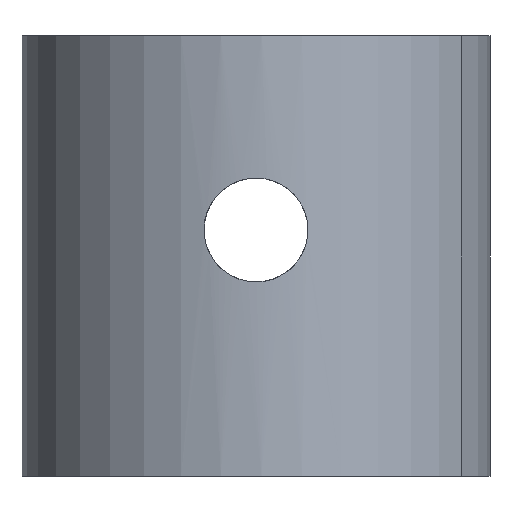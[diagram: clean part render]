
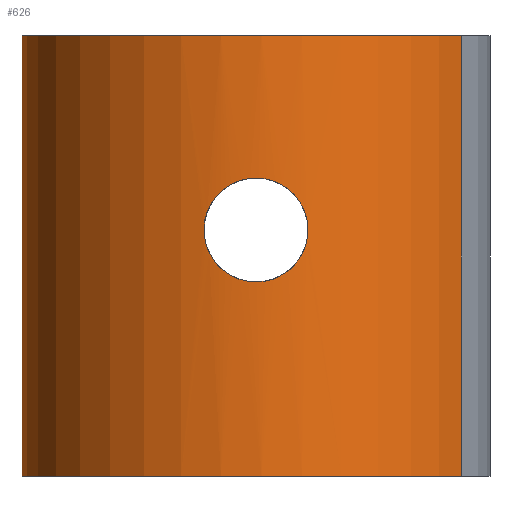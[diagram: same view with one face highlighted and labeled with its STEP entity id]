
A CAD part, left-side view. The second image highlights one B-rep face of the part: STEP entity #626.
In plain terms, the highlighted cylindrical face has radius 6.75 mm (diameter 13.5 mm), a partial arc.
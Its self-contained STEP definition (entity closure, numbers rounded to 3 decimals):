
#517=AXIS2_PLACEMENT_3D('Cylinder Axis2P3D',#514,#515,#516) ;
#565=AXIS2_PLACEMENT_3D('Circle Axis2P3D',#563,#564,$) ;
#575=AXIS2_PLACEMENT_3D('Circle Axis2P3D',#573,#574,$) ;
#514=CARTESIAN_POINT('Axis2P3D Location',(0.,0.,8.6)) ;
#519=CARTESIAN_POINT('Line Origine',(-3.236,-5.924,6.35)) ;
#523=CARTESIAN_POINT('Vertex',(-3.236,-5.924,12.7)) ;
#525=CARTESIAN_POINT('Vertex',(-3.236,-5.924,0.)) ;
#532=CARTESIAN_POINT('Vertex',(3.236,5.924,0.)) ;
#535=CARTESIAN_POINT('Line Origine',(3.236,5.924,6.35)) ;
#539=CARTESIAN_POINT('Vertex',(3.236,5.924,12.7)) ;
#563=CARTESIAN_POINT('Axis2P3D Location',(0.,0.,12.7)) ;
#573=CARTESIAN_POINT('Axis2P3D Location',(0.,0.,0.)) ;
#585=CARTESIAN_POINT('Control Point',(-6.712,-0.719,5.784)) ;
#586=CARTESIAN_POINT('Control Point',(-6.696,-0.862,5.862)) ;
#587=CARTESIAN_POINT('Control Point',(-6.678,-0.994,5.959)) ;
#588=CARTESIAN_POINT('Control Point',(-6.659,-1.112,6.073)) ;
#589=CARTESIAN_POINT('Control Point',(-6.604,-1.412,6.457)) ;
#590=CARTESIAN_POINT('Control Point',(-6.571,-1.545,6.94)) ;
#591=CARTESIAN_POINT('Control Point',(-6.571,-1.543,7.28)) ;
#592=CARTESIAN_POINT('Control Point',(-6.606,-1.403,7.762)) ;
#593=CARTESIAN_POINT('Control Point',(-6.661,-1.099,8.141)) ;
#594=CARTESIAN_POINT('Control Point',(-6.68,-0.98,8.253)) ;
#595=CARTESIAN_POINT('Control Point',(-6.731,-0.605,8.522)) ;
#596=CARTESIAN_POINT('Control Point',(-6.759,-0.147,8.638)) ;
#597=CARTESIAN_POINT('Control Point',(-6.758,0.164,8.636)) ;
#598=CARTESIAN_POINT('Control Point',(-6.739,0.46,8.558)) ;
#599=CARTESIAN_POINT('Control Point',(-6.712,0.719,8.416)) ;
#600=CARTESIAN_POINT('Vertex',(-6.712,-0.719,5.784)) ;
#602=CARTESIAN_POINT('Vertex',(-6.712,0.719,8.416)) ;
#606=CARTESIAN_POINT('Control Point',(-6.712,-0.719,5.784)) ;
#607=CARTESIAN_POINT('Control Point',(-6.742,-0.436,5.629)) ;
#608=CARTESIAN_POINT('Control Point',(-6.762,-0.111,5.55)) ;
#609=CARTESIAN_POINT('Control Point',(-6.758,0.231,5.564)) ;
#610=CARTESIAN_POINT('Control Point',(-6.72,0.71,5.72)) ;
#611=CARTESIAN_POINT('Control Point',(-6.665,1.08,6.04)) ;
#612=CARTESIAN_POINT('Control Point',(-6.646,1.189,6.163)) ;
#613=CARTESIAN_POINT('Control Point',(-6.611,1.37,6.436)) ;
#614=CARTESIAN_POINT('Control Point',(-6.588,1.472,6.748)) ;
#615=CARTESIAN_POINT('Control Point',(-6.581,1.501,6.909)) ;
#616=CARTESIAN_POINT('Control Point',(-6.576,1.522,7.371)) ;
#617=CARTESIAN_POINT('Control Point',(-6.611,1.369,7.816)) ;
#618=CARTESIAN_POINT('Control Point',(-6.647,1.2,8.071)) ;
#619=CARTESIAN_POINT('Control Point',(-6.684,0.977,8.275)) ;
#620=CARTESIAN_POINT('Control Point',(-6.712,0.719,8.416)) ;
#515=DIRECTION('Axis2P3D Direction',(0.,0.,-1.)) ;
#516=DIRECTION('Axis2P3D XDirection',(0.479,0.878,0.)) ;
#520=DIRECTION('Vector Direction',(0.,0.,-1.)) ;
#536=DIRECTION('Vector Direction',(0.,0.,-1.)) ;
#564=DIRECTION('Axis2P3D Direction',(0.,0.,-1.)) ;
#574=DIRECTION('Axis2P3D Direction',(0.,0.,-1.)) ;
#521=VECTOR('Line Direction',#520,1.) ;
#537=VECTOR('Line Direction',#536,1.) ;
#579=ORIENTED_EDGE('',*,*,#541,.T.) ;
#580=ORIENTED_EDGE('',*,*,#577,.F.) ;
#581=ORIENTED_EDGE('',*,*,#527,.F.) ;
#582=ORIENTED_EDGE('',*,*,#567,.T.) ;
#623=ORIENTED_EDGE('',*,*,#604,.F.) ;
#624=ORIENTED_EDGE('',*,*,#621,.T.) ;
#625=FACE_BOUND('',#622,.T.) ;
#626=ADVANCED_FACE('',(#583,#625),#518,.T.) ;
#584=B_SPLINE_CURVE_WITH_KNOTS('',5,(#585,#586,#587,#588,#589,#590,#591,#592,#593,#594,#595,#596,#597,#598,#599),.UNSPECIFIED.,.F.,.U.,(6,3,3,3,6),(0.,1.155,3.434,4.585,6.685),.UNSPECIFIED.) ;
#605=B_SPLINE_CURVE_WITH_KNOTS('',5,(#606,#607,#608,#609,#610,#611,#612,#613,#614,#615,#616,#617,#618,#619,#620),.UNSPECIFIED.,.F.,.U.,(6,3,3,3,6),(0.,2.291,3.449,4.595,6.685),.UNSPECIFIED.) ;
#566=CIRCLE('generated circle',#565,6.75) ;
#576=CIRCLE('generated circle',#575,6.75) ;
#518=CYLINDRICAL_SURFACE('generated cylinder',#517,6.75) ;
#527=EDGE_CURVE('',#524,#526,#522,.T.) ;
#541=EDGE_CURVE('',#540,#533,#538,.T.) ;
#567=EDGE_CURVE('',#524,#540,#566,.T.) ;
#577=EDGE_CURVE('',#526,#533,#576,.T.) ;
#604=EDGE_CURVE('',#601,#603,#584,.T.) ;
#621=EDGE_CURVE('',#601,#603,#605,.T.) ;
#578=EDGE_LOOP('',(#579,#580,#581,#582)) ;
#622=EDGE_LOOP('',(#623,#624)) ;
#583=FACE_OUTER_BOUND('',#578,.T.) ;
#522=LINE('Line',#519,#521) ;
#538=LINE('Line',#535,#537) ;
#524=VERTEX_POINT('',#523) ;
#526=VERTEX_POINT('',#525) ;
#533=VERTEX_POINT('',#532) ;
#540=VERTEX_POINT('',#539) ;
#601=VERTEX_POINT('',#600) ;
#603=VERTEX_POINT('',#602) ;
